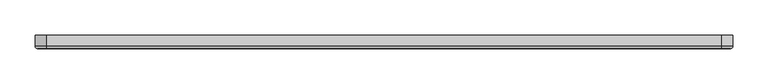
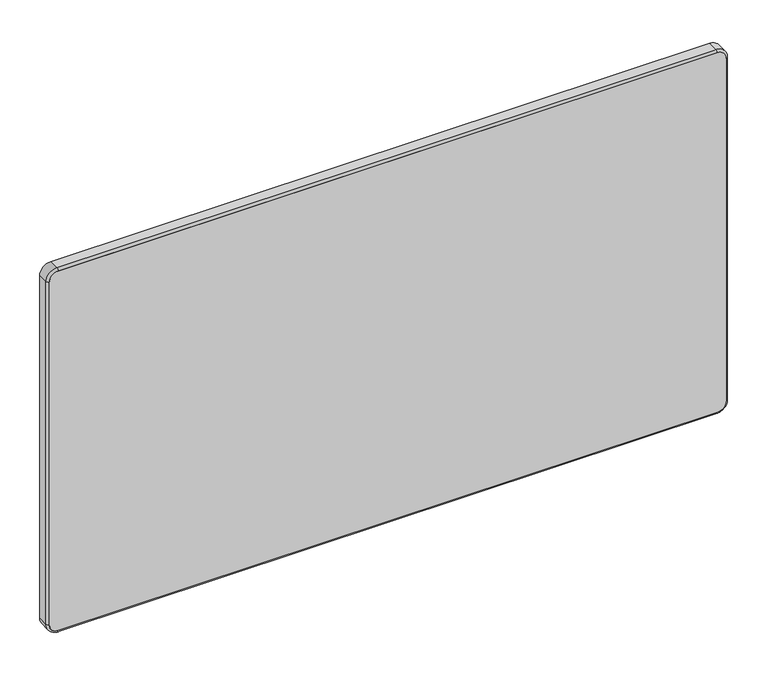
"""IFC4 building model written with IfcOpenShell, lengths in millimetres: furniture geometry, Stance_HC-Camber-Board : SK600E-SHB."""

from ifc_helpers import new_model, si_unit, point, frame, frame_2d, origin, place, context, project, spatial, polyline, circle_curve, ellipse_curve, trimmed, segment, composite_curve, outline, extrude, source, transform, mapped, element, save
from ifc_brep_helpers import plane_surface, cylinder_surface, revolved_surface, advanced_brep


def furniture_7b053094(model_context):
    return source(origin(), model_context, "Body", "SolidModel", [
        extrude(outline(composite_curve([segment(polyline([(555.6249758, 479.425), (555.6249758, -479.425)]), True, "CONTINUOUS"), segment(trimmed(circle_curve(frame_2d((542.925, -479.425)), 12.6999758), [point((555.6249758, -479.425))], [point((542.925, -492.1249758))], False, "CARTESIAN"), True, "CONTINUOUS"), segment(polyline([(542.925, -492.1249758), (15.875, -492.1249758)]), True, "CONTINUOUS"), segment(trimmed(circle_curve(frame_2d((15.875, -479.425)), 12.6999758), [point((15.875, -492.1249758))], [point((3.1750242, -479.425))], False, "CARTESIAN"), True, "CONTINUOUS"), segment(polyline([(3.1750242, -479.425), (3.1750242, 479.425)]), True, "CONTINUOUS"), segment(trimmed(circle_curve(frame_2d((15.875, 479.425)), 12.6999758), [point((3.1750242, 479.425))], [point((15.875, 492.1249758))], False, "CARTESIAN"), True, "CONTINUOUS"), segment(polyline([(15.875, 492.1249758), (542.925, 492.1249758)]), True, "CONTINUOUS"), segment(trimmed(circle_curve(frame_2d((542.925, 479.425)), 12.6999758), [point((542.925, 492.1249758))], [point((555.6249758, 479.425))], False, "CARTESIAN"), True, "CONTINUOUS")], self_intersect=False)), frame((0.0, -19.05, 0.0), z_axis=(0.0, 1.0, 0.0), x_axis=(0.0, 0.0, 1.0)), (0.0, 0.0, 1.0), 19.05),
        advanced_brep(
        [(492.1249758, -19.05, 542.925), (479.425, -19.05, 555.6249758), (479.425, 0.0, 555.6249758), (492.1249758, 0.0, 542.925), (495.3, -15.8749996, 542.925), (479.425, -15.8749996, 558.8), (495.3, 0.0, 542.925), (479.425, 0.0, 558.8), (492.1249758, 0.0, 15.875), (492.1249758, -19.05, 15.875), (495.3, -15.8749996, 15.875), (495.3, 0.0, 15.875), (479.425, -19.05, 3.1750242), (479.425, 0.0, 3.1750242), (479.425, -15.8749996, 0.0), (479.425, 0.0, 0.0), (-479.425, 0.0, 3.1750242), (-479.425, -19.05, 3.1750242), (-479.425, -15.8749996, 0.0), (-479.425, 0.0, 0.0), (-492.1249758, -19.05, 15.875), (-492.1249758, 0.0, 15.875), (-495.3, -15.8749996, 15.875), (-495.3, 0.0, 15.875), (-492.1249758, 0.0, 542.925), (-492.1249758, -19.05, 542.925), (-495.3, -15.8749996, 542.925), (-495.3, 0.0, 542.925), (-479.425, -19.05, 555.6249758), (-479.425, 0.0, 555.6249758), (-479.425, -15.8749996, 558.8), (-479.425, 0.0, 558.8)],
        [
            (0, 1, circle_curve(frame((479.425, -19.05, 542.925), z_axis=(0.0, -1.0, 0.0), x_axis=(0.0, 0.0, 1.0)), 12.6999758)),
            (1, 2),
            (2, 3, circle_curve(frame((479.425, 0.0, 542.925), z_axis=(0.0, 1.0, 0.0), x_axis=(0.0, 0.0, 1.0)), 12.6999758)),
            (3, 0),
            (4, 5, circle_curve(frame((479.425, -15.8749996, 542.925), z_axis=(0.0, -1.0, 0.0), x_axis=(0.0, 0.0, 1.0)), 15.875)),
            (5, 1, circle_curve(frame((479.425, -15.8749996, 555.6249996), z_axis=(1.0, 0.0, 0.0), x_axis=(0.0, 0.0, 1.0)), 3.1750004)),
            (0, 4, circle_curve(frame((492.1249996, -15.8749996, 542.925), z_axis=(0.0, 0.0, 1.0), x_axis=(1.0, 0.0, 0.0)), 3.1750004)),
            (6, 7, circle_curve(frame((479.425, 0.0, 542.925), z_axis=(0.0, -1.0, 0.0), x_axis=(0.0, 0.0, 1.0)), 15.875)),
            (7, 5),
            (4, 6),
            (3, 8),
            (8, 9),
            (9, 0),
            (9, 10, circle_curve(frame((492.1249996, -15.8749996, 15.875), z_axis=(0.0, 0.0, 1.0), x_axis=(1.0, 0.0, 0.0)), 3.1750004)),
            (10, 4),
            (10, 11),
            (11, 6),
            (12, 9, circle_curve(frame((479.425, -19.05, 15.875), z_axis=(0.0, -1.0, 0.0), x_axis=(1.0, 0.0, 0.0)), 12.6999758)),
            (8, 13, circle_curve(frame((479.425, 0.0, 15.875), z_axis=(0.0, 1.0, 0.0), x_axis=(1.0, 0.0, 0.0)), 12.6999758)),
            (13, 12),
            (14, 10, circle_curve(frame((479.425, -15.8749996, 15.875), z_axis=(0.0, -1.0, 0.0), x_axis=(1.0, 0.0, 0.0)), 15.875)),
            (12, 14, circle_curve(frame((479.425, -15.8749996, 3.1750004), z_axis=(1.0, 0.0, 0.0), x_axis=(0.0, 0.0, -1.0)), 3.1750004)),
            (15, 11, circle_curve(frame((479.425, 0.0, 15.875), z_axis=(0.0, -1.0, 0.0), x_axis=(1.0, 0.0, 0.0)), 15.875)),
            (14, 15),
            (13, 16),
            (16, 17),
            (17, 12),
            (17, 18, circle_curve(frame((-479.425, -15.8749996, 3.1750004), z_axis=(1.0, 0.0, 0.0), x_axis=(0.0, 0.0, -1.0)), 3.1750004)),
            (18, 14),
            (18, 19),
            (19, 15),
            (20, 17, circle_curve(frame((-479.425, -19.05, 15.875), z_axis=(0.0, -1.0, 0.0), x_axis=(0.0, 0.0, -1.0)), 12.6999758)),
            (16, 21, circle_curve(frame((-479.425, 0.0, 15.875), z_axis=(0.0, 1.0, 0.0), x_axis=(0.0, 0.0, -1.0)), 12.6999758)),
            (21, 20),
            (22, 18, circle_curve(frame((-479.425, -15.8749996, 15.875), z_axis=(0.0, -1.0, 0.0), x_axis=(0.0, 0.0, -1.0)), 15.875)),
            (20, 22, circle_curve(frame((-492.1249996, -15.8749996, 15.875), z_axis=(0.0, 0.0, -1.0), x_axis=(-1.0, 0.0, 0.0)), 3.1750004)),
            (23, 19, circle_curve(frame((-479.425, 0.0, 15.875), z_axis=(0.0, -1.0, 0.0), x_axis=(0.0, 0.0, -1.0)), 15.875)),
            (22, 23),
            (21, 24),
            (24, 25),
            (25, 20),
            (25, 26, circle_curve(frame((-492.1249996, -15.8749996, 542.925), z_axis=(0.0, 0.0, -1.0), x_axis=(-1.0, 0.0, 0.0)), 3.1750004)),
            (26, 22),
            (26, 27),
            (27, 23),
            (28, 25, circle_curve(frame((-479.425, -19.05, 542.925), z_axis=(0.0, -1.0, 0.0), x_axis=(-1.0, 0.0, 0.0)), 12.6999758)),
            (24, 29, circle_curve(frame((-479.425, 0.0, 542.925), z_axis=(0.0, 1.0, 0.0), x_axis=(-1.0, 0.0, 0.0)), 12.6999758)),
            (29, 28),
            (30, 26, circle_curve(frame((-479.425, -15.8749996, 542.925), z_axis=(0.0, -1.0, 0.0), x_axis=(-1.0, 0.0, 0.0)), 15.875)),
            (28, 30, circle_curve(frame((-479.425, -15.8749996, 555.6249996), z_axis=(-1.0, 0.0, 0.0), x_axis=(0.0, 0.0, 1.0)), 3.1750004)),
            (31, 27, circle_curve(frame((-479.425, 0.0, 542.925), z_axis=(0.0, -1.0, 0.0), x_axis=(-1.0, 0.0, 0.0)), 15.875)),
            (30, 31),
            (29, 2),
            (1, 28),
            (5, 30),
            (7, 31),
        ],
        [
            revolved_surface(polyline([(479.425, 0.0, 555.6249757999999), (479.425, -19.05, 555.6249757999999)]), (479.425, 0.0, 542.925), (0.0, 1.0, 0.0)),
            revolved_surface(trimmed(ellipse_curve(frame((479.425, -15.8749996, 555.6249996), z_axis=(-1.0, 0.0, 0.0), x_axis=(0.0, 0.0, 1.0)), 3.1750004, 3.1750004), [point((479.425, -19.05, 555.6249758))], [point((479.425, -15.8749996, 558.8))], True, "CARTESIAN"), (479.425, 0.0, 542.925), (0.0, 1.0, 0.0)),
            cylinder_surface(frame((479.425, 0.0, 542.925), z_axis=(0.0, 1.0, 0.0), x_axis=(0.0, 0.0, 1.0)), 15.875),
            plane_surface(frame((492.1249758, 0.0, 542.925), z_axis=(-1.0, 0.0, 0.0), x_axis=(0.0, 0.0, -1.0))),
            cylinder_surface(frame((492.1249996, -15.8749996, 542.925), z_axis=(0.0, 0.0, 1.0), x_axis=(1.0, 0.0, 0.0)), 3.1750004),
            plane_surface(frame((495.3, -15.8749996, 542.925), z_axis=(1.0, 0.0, 0.0), x_axis=(0.0, 0.0, -1.0))),
            revolved_surface(polyline([(492.1249758, 0.0, 15.875), (492.1249758, -19.05, 15.875)]), (479.425, 0.0, 15.875), (0.0, 1.0, 0.0)),
            revolved_surface(trimmed(ellipse_curve(frame((492.1249996, -15.8749996, 15.875), z_axis=(0.0, 0.0, 1.0), x_axis=(1.0, 0.0, 0.0)), 3.1750004, 3.1750004), [point((492.1249758, -19.05, 15.875))], [point((495.3, -15.8749996, 15.875))], True, "CARTESIAN"), (479.425, 0.0, 15.875), (0.0, 1.0, 0.0)),
            cylinder_surface(frame((479.425, 0.0, 15.875), z_axis=(0.0, 1.0, 0.0), x_axis=(1.0, 0.0, 0.0)), 15.875),
            plane_surface(frame((479.425, 0.0, 3.1750242), z_axis=(0.0, 0.0, 1.0), x_axis=(-1.0, 0.0, 0.0))),
            cylinder_surface(frame((479.425, -15.8749996, 3.1750004), z_axis=(1.0, 0.0, 0.0), x_axis=(0.0, 0.0, -1.0)), 3.1750004),
            plane_surface(frame((479.425, -15.8749996, 0.0), z_axis=(0.0, 0.0, -1.0), x_axis=(-1.0, 0.0, 0.0))),
            revolved_surface(polyline([(-479.425, 0.0, 3.1750241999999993), (-479.425, -19.05, 3.1750241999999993)]), (-479.425, 0.0, 15.875), (0.0, 1.0, 0.0)),
            revolved_surface(trimmed(ellipse_curve(frame((-479.425, -15.8749996, 3.1750004), z_axis=(1.0, 0.0, 0.0), x_axis=(0.0, 0.0, -1.0)), 3.1750004, 3.1750004), [point((-479.425, -19.05, 3.1750242))], [point((-479.425, -15.8749996, 0.0))], True, "CARTESIAN"), (-479.425, 0.0, 15.875), (0.0, 1.0, 0.0)),
            cylinder_surface(frame((-479.425, 0.0, 15.875), z_axis=(0.0, 1.0, 0.0), x_axis=(0.0, 0.0, -1.0)), 15.875),
            plane_surface(frame((-492.1249758, 0.0, 15.875), z_axis=(1.0, 0.0, 0.0), x_axis=(0.0, 0.0, 1.0))),
            cylinder_surface(frame((-492.1249996, -15.8749996, 15.875), z_axis=(0.0, 0.0, -1.0), x_axis=(-1.0, 0.0, 0.0)), 3.1750004),
            plane_surface(frame((-495.3, -15.8749996, 15.875), z_axis=(-1.0, 0.0, 0.0), x_axis=(0.0, 0.0, 1.0))),
            revolved_surface(polyline([(-492.1249758, 0.0, 542.925), (-492.1249758, -19.05, 542.925)]), (-479.425, 0.0, 542.925), (0.0, 1.0, 0.0)),
            revolved_surface(trimmed(ellipse_curve(frame((-492.1249996, -15.8749996, 542.925), z_axis=(0.0, 0.0, -1.0), x_axis=(-1.0, 0.0, 0.0)), 3.1750004, 3.1750004), [point((-492.1249758, -19.05, 542.925))], [point((-495.3, -15.8749996, 542.925))], True, "CARTESIAN"), (-479.425, 0.0, 542.925), (0.0, 1.0, 0.0)),
            cylinder_surface(frame((-479.425, 0.0, 542.925), z_axis=(0.0, 1.0, 0.0), x_axis=(-1.0, 0.0, 0.0)), 15.875),
            plane_surface(frame((-479.425, 0.0, 555.6249758), z_axis=(0.0, 0.0, -1.0), x_axis=(1.0, 0.0, 0.0))),
            cylinder_surface(frame((-479.425, -15.8749996, 555.6249996), z_axis=(-1.0, 0.0, 0.0), x_axis=(0.0, 0.0, 1.0)), 3.1750004),
            plane_surface(frame((-479.425, -15.8749996, 558.8), z_axis=(0.0, 0.0, 1.0), x_axis=(1.0, 0.0, 0.0))),
            plane_surface(frame((-479.425, 0.0, 558.8), z_axis=(0.0, 1.0, 0.0), x_axis=(1.0, 0.0, 0.0))),
        ],
        [
            (0, [[1, 2, 3, 4]]),
            (1, [[5, 6, -1, 7]]),
            (2, [[8, 9, -5, 10]]),
            (3, [[-4, 11, 12, 13]]),
            (4, [[-7, -13, 14, 15]]),
            (5, [[-10, -15, 16, 17]]),
            (6, [[18, -12, 19, 20]]),
            (7, [[21, -14, -18, 22]]),
            (8, [[23, -16, -21, 24]]),
            (9, [[-20, 25, 26, 27]]),
            (10, [[-22, -27, 28, 29]]),
            (11, [[-24, -29, 30, 31]]),
            (12, [[32, -26, 33, 34]]),
            (13, [[35, -28, -32, 36]]),
            (14, [[37, -30, -35, 38]]),
            (15, [[-34, 39, 40, 41]]),
            (16, [[-36, -41, 42, 43]]),
            (17, [[-38, -43, 44, 45]]),
            (18, [[46, -40, 47, 48]]),
            (19, [[49, -42, -46, 50]]),
            (20, [[51, -44, -49, 52]]),
            (21, [[-48, 53, -2, 54]]),
            (22, [[-50, -54, -6, 55]]),
            (23, [[-52, -55, -9, 56]]),
            (24, [[-45, -51, -56, -8, -17, -23, -31, -37], [-53, -47, -39, -33, -25, -19, -11, -3]]),
        ],
    ),
    ])


if __name__ == "__main__":
    model = new_model("IFC4")
    model_context = context("Model", 3, world=origin())
    ifc_project = project(units=[si_unit("LENGTHUNIT", "METRE", prefix="MILLI")], contexts=[model_context])
    site = spatial("IfcSite", under=ifc_project)
    building = spatial("IfcBuilding", under=site)
    placement = place(None, origin())
    furniture_shape = furniture_7b053094(model_context)
    element("IfcFurniture", 1, ObjectType="Stance_HC-Camber-Board : SK600E-SHB", at=placement, inside=building, context=model_context, shape_type="MappedRepresentation", body=[
        mapped(furniture_shape, transform((0.0, 0.0, 0.0), x_axis=(1.0, 0.0, 0.0), y_axis=(0.0, 1.0, 0.0), z_axis=(0.0, 0.0, 1.0))),
    ])
    save(model, "model.ifc")
